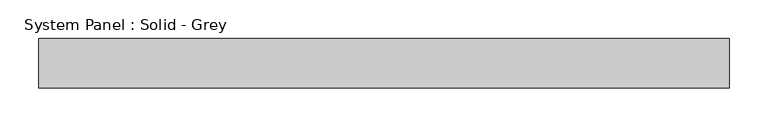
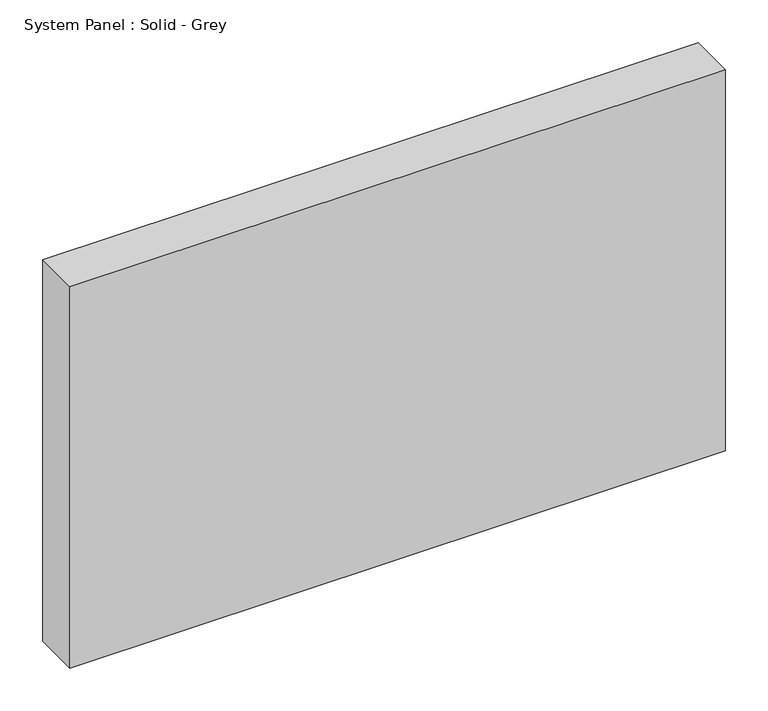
"""IFC4 building model written with IfcOpenShell, lengths in millimetres: plate geometry, System Panel : Solid - Grey."""

from ifc_helpers import new_model, si_unit, origin, origin_with_axes, place, context, project, spatial, polyline, outline, extrude, source, transform, mapped, element, save


def system_panel_solid_grey_07544abd(model_context):
    return source(origin(), model_context, "Body", "SweptSolid", [
        extrude(outline(polyline([(443.9708333, -19.05), (-443.9708333, -19.05), (-443.9708333, 44.45), (443.9708333, 44.45), (443.9708333, -19.05)])), origin_with_axes(), (0.0, 0.0, 1.0), 546.1),
    ])


if __name__ == "__main__":
    model = new_model("IFC4")
    model_context = context("Model", 3, world=origin())
    ifc_project = project(units=[si_unit("LENGTHUNIT", "METRE", prefix="MILLI")], contexts=[model_context])
    site = spatial("IfcSite", under=ifc_project)
    building = spatial("IfcBuilding", under=site)
    placement = place(None, origin())
    system_panel_solid_grey_shape = system_panel_solid_grey_07544abd(model_context)
    element("IfcPlate", 1, ObjectType="System Panel : Solid - Grey", at=placement, inside=building, context=model_context, shape_type="MappedRepresentation", body=[
        mapped(system_panel_solid_grey_shape, transform((0.0, 0.0, 0.0), x_axis=(1.0, 0.0, 0.0), y_axis=(0.0, 1.0, 0.0), z_axis=(0.0, 0.0, 1.0))),
    ])
    save(model, "model.ifc")
